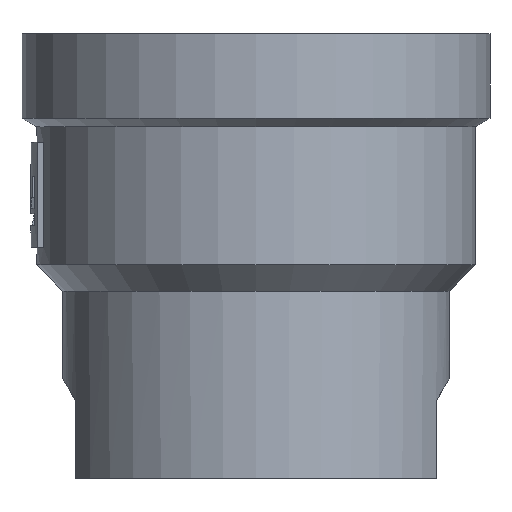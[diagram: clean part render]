
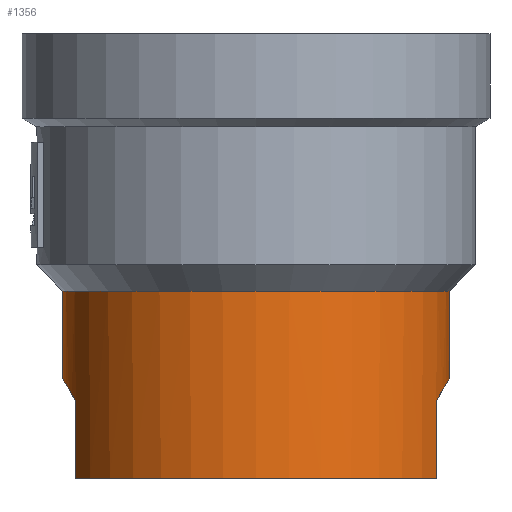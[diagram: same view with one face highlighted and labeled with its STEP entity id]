
A CAD part, front view. The second image highlights one B-rep face of the part: STEP entity #1356.
In plain terms, the highlighted cylindrical face has radius 16.5 mm (diameter 33 mm), a full revolution.
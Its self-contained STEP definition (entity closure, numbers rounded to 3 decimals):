
#124=CIRCLE('',#1461,16.5);
#125=CIRCLE('',#1462,16.5);
#126=CIRCLE('',#1463,16.5);
#127=CIRCLE('',#1464,16.5);
#128=CIRCLE('',#1465,16.5);
#185=CYLINDRICAL_SURFACE('',#1460,16.5);
#220=FACE_OUTER_BOUND('',#300,.T.);
#300=EDGE_LOOP('',(#908,#909,#910,#911,#912,#913,#914,#915,#916,#917,#918,
#919,#920));
#386=LINE('',#1926,#461);
#388=LINE('',#1929,#463);
#390=LINE('',#1937,#465);
#392=LINE('',#1940,#467);
#393=LINE('',#1947,#468);
#461=VECTOR('',#1592,10.);
#463=VECTOR('',#1594,10.);
#465=VECTOR('',#1602,10.);
#467=VECTOR('',#1604,10.);
#468=VECTOR('',#1611,16.5);
#535=ELLIPSE('',#1455,33.,16.5);
#536=ELLIPSE('',#1458,33.,16.5);
#539=VERTEX_POINT('',#1920);
#540=VERTEX_POINT('',#1921);
#541=VERTEX_POINT('',#1925);
#542=VERTEX_POINT('',#1927);
#543=VERTEX_POINT('',#1931);
#544=VERTEX_POINT('',#1932);
#545=VERTEX_POINT('',#1936);
#546=VERTEX_POINT('',#1938);
#547=VERTEX_POINT('',#1942);
#548=VERTEX_POINT('',#1943);
#549=VERTEX_POINT('',#1946);
#682=EDGE_CURVE('',#539,#540,#535,.T.);
#684=EDGE_CURVE('',#541,#539,#386,.T.);
#686=EDGE_CURVE('',#540,#542,#388,.T.);
#687=EDGE_CURVE('',#543,#544,#536,.T.);
#689=EDGE_CURVE('',#545,#543,#390,.T.);
#691=EDGE_CURVE('',#544,#546,#392,.T.);
#692=EDGE_CURVE('',#547,#548,#124,.T.);
#693=EDGE_CURVE('',#548,#547,#125,.T.);
#694=EDGE_CURVE('',#548,#549,#393,.T.);
#695=EDGE_CURVE('',#549,#541,#126,.T.);
#696=EDGE_CURVE('',#542,#545,#127,.T.);
#697=EDGE_CURVE('',#546,#549,#128,.T.);
#908=ORIENTED_EDGE('',*,*,#692,.F.);
#909=ORIENTED_EDGE('',*,*,#693,.F.);
#910=ORIENTED_EDGE('',*,*,#694,.T.);
#911=ORIENTED_EDGE('',*,*,#695,.T.);
#912=ORIENTED_EDGE('',*,*,#684,.T.);
#913=ORIENTED_EDGE('',*,*,#682,.T.);
#914=ORIENTED_EDGE('',*,*,#686,.T.);
#915=ORIENTED_EDGE('',*,*,#696,.T.);
#916=ORIENTED_EDGE('',*,*,#689,.T.);
#917=ORIENTED_EDGE('',*,*,#687,.T.);
#918=ORIENTED_EDGE('',*,*,#691,.T.);
#919=ORIENTED_EDGE('',*,*,#697,.T.);
#920=ORIENTED_EDGE('',*,*,#694,.F.);
#1356=ADVANCED_FACE('',(#220),#185,.T.);
#1455=AXIS2_PLACEMENT_3D('',#1922,#1587,#1588);
#1458=AXIS2_PLACEMENT_3D('',#1933,#1597,#1598);
#1460=AXIS2_PLACEMENT_3D('',#1941,#1605,#1606);
#1461=AXIS2_PLACEMENT_3D('',#1944,#1607,#1608);
#1462=AXIS2_PLACEMENT_3D('',#1945,#1609,#1610);
#1463=AXIS2_PLACEMENT_3D('',#1948,#1612,#1613);
#1464=AXIS2_PLACEMENT_3D('',#1949,#1614,#1615);
#1465=AXIS2_PLACEMENT_3D('',#1950,#1616,#1617);
#1587=DIRECTION('center_axis',(0.866,0.,0.5));
#1588=DIRECTION('ref_axis',(0.5,0.,-0.866));
#1592=DIRECTION('',(0.,0.,1.));
#1594=DIRECTION('',(0.,0.,-1.));
#1597=DIRECTION('center_axis',(-0.866,0.,0.5));
#1598=DIRECTION('ref_axis',(0.5,0.,0.866));
#1602=DIRECTION('',(0.,0.,1.));
#1604=DIRECTION('',(0.,0.,-1.));
#1605=DIRECTION('center_axis',(0.,0.,1.));
#1606=DIRECTION('ref_axis',(0.,-1.,0.));
#1607=DIRECTION('center_axis',(0.,0.,1.));
#1608=DIRECTION('ref_axis',(1.,0.,0.));
#1609=DIRECTION('center_axis',(0.,0.,1.));
#1610=DIRECTION('ref_axis',(1.,0.,0.));
#1611=DIRECTION('',(0.,0.,-1.));
#1612=DIRECTION('center_axis',(0.,0.,1.));
#1613=DIRECTION('ref_axis',(1.,0.,0.));
#1614=DIRECTION('center_axis',(0.,0.,1.));
#1615=DIRECTION('ref_axis',(1.,0.,0.));
#1616=DIRECTION('center_axis',(0.,0.,1.));
#1617=DIRECTION('ref_axis',(1.,0.,0.));
#1920=CARTESIAN_POINT('',(-15.4,5.924,8.414));
#1921=CARTESIAN_POINT('',(-15.4,-5.924,8.414));
#1922=CARTESIAN_POINT('Origin',(0.,0.,-18.259));
#1925=CARTESIAN_POINT('',(-15.4,5.924,1.82));
#1926=CARTESIAN_POINT('',(-15.4,5.924,9.82));
#1927=CARTESIAN_POINT('',(-15.4,-5.924,1.82));
#1929=CARTESIAN_POINT('',(-15.4,-5.924,9.82));
#1931=CARTESIAN_POINT('',(15.4,-5.924,8.414));
#1932=CARTESIAN_POINT('',(15.4,5.924,8.414));
#1933=CARTESIAN_POINT('Origin',(0.,0.,-18.259));
#1936=CARTESIAN_POINT('',(15.4,-5.924,1.82));
#1937=CARTESIAN_POINT('',(15.4,-5.924,9.82));
#1938=CARTESIAN_POINT('',(15.4,5.924,1.82));
#1940=CARTESIAN_POINT('',(15.4,5.924,9.82));
#1941=CARTESIAN_POINT('Origin',(0.,0.,9.82));
#1942=CARTESIAN_POINT('',(0.,-16.5,17.82));
#1943=CARTESIAN_POINT('',(0.,16.5,17.82));
#1944=CARTESIAN_POINT('Origin',(0.,0.,17.82));
#1945=CARTESIAN_POINT('Origin',(0.,0.,17.82));
#1946=CARTESIAN_POINT('',(0.,16.5,1.82));
#1947=CARTESIAN_POINT('',(0.,16.5,9.82));
#1948=CARTESIAN_POINT('Origin',(0.,0.,1.82));
#1949=CARTESIAN_POINT('Origin',(0.,0.,1.82));
#1950=CARTESIAN_POINT('Origin',(0.,0.,1.82));
